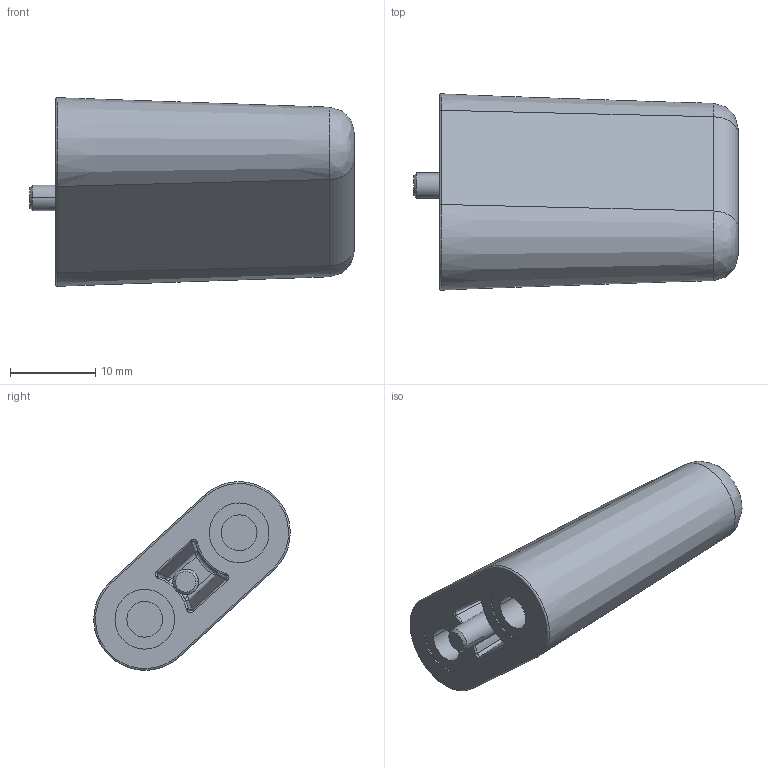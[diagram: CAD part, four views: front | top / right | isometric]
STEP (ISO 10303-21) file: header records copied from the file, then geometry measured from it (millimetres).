
FILE_DESCRIPTION((''),'2;1');
FILE_NAME('YC_SJ_ZS000025_01','2026-03-20T11:09:56',('casson.cai'),(''),'CREO PARAMETRIC BY PTC INC, 2022164','CREO PARAMETRIC BY PTC INC, 2022164','');
FILE_SCHEMA(('CONFIG_CONTROL_DESIGN'));
Length unit declared in the file: millimetre
Products named in the file (1): YC_SJ_ZS000025_01
Bounding box: 38 x 23.03 x 22.11 mm (x, y, z)
Volume: 7339.8 mm3; surface area: 7338.6 mm2
Topology: 3 solids, 3 shells, 101 faces, 218 edges, 136 vertices
Faces by surface type: cylinder 45, plane 26, bspline 18, torus 8, cone 4
Entity records: 3570 total; most frequent: CARTESIAN_POINT 1365, DIRECTION 464, ORIENTED_EDGE 436, EDGE_CURVE 218, AXIS2_PLACEMENT_3D 201, VERTEX_POINT 136, EDGE_LOOP 118, CIRCLE 118
